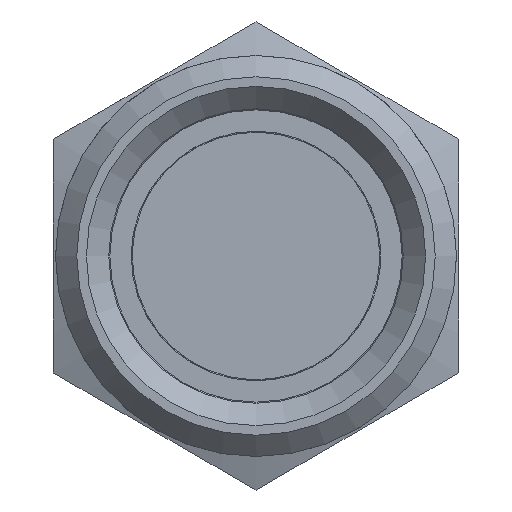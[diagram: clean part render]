
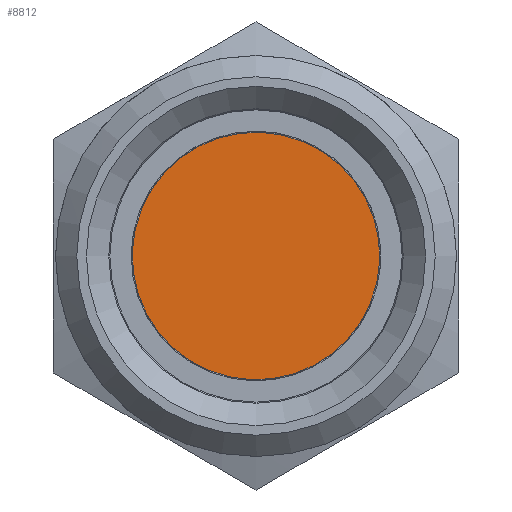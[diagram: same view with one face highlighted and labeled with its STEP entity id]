
A CAD part, left-side view. The second image highlights one B-rep face of the part: STEP entity #8812.
In plain terms, the highlighted planar face has unit normal (-1, 0, 0).
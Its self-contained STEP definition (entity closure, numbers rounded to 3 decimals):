
#516=CIRCLE('',#10338,5.8);
#881=PLANE('',#10342);
#1149=FACE_OUTER_BOUND('',#1595,.T.);
#1595=EDGE_LOOP('',(#2337));
#2337=ORIENTED_EDGE('',*,*,#4824,.F.);
#4824=EDGE_CURVE('',#9466,#9466,#516,.T.);
#8812=ADVANCED_FACE('',(#1149),#881,.F.);
#9466=VERTEX_POINT('',#13872);
#10338=AXIS2_PLACEMENT_3D('',#13871,#11343,#11344);
#10342=AXIS2_PLACEMENT_3D('',#13877,#11351,#11352);
#11343=DIRECTION('',(1.,0.,0.));
#11344=DIRECTION('',(0.,0.,-1.));
#11351=DIRECTION('',(1.,0.,0.));
#11352=DIRECTION('',(0.,-0.924,-0.382));
#13871=CARTESIAN_POINT('',(-23.7,0.,49.98));
#13872=CARTESIAN_POINT('',(-23.7,-5.361,47.765));
#13877=CARTESIAN_POINT('',(-23.7,0.,49.98));
